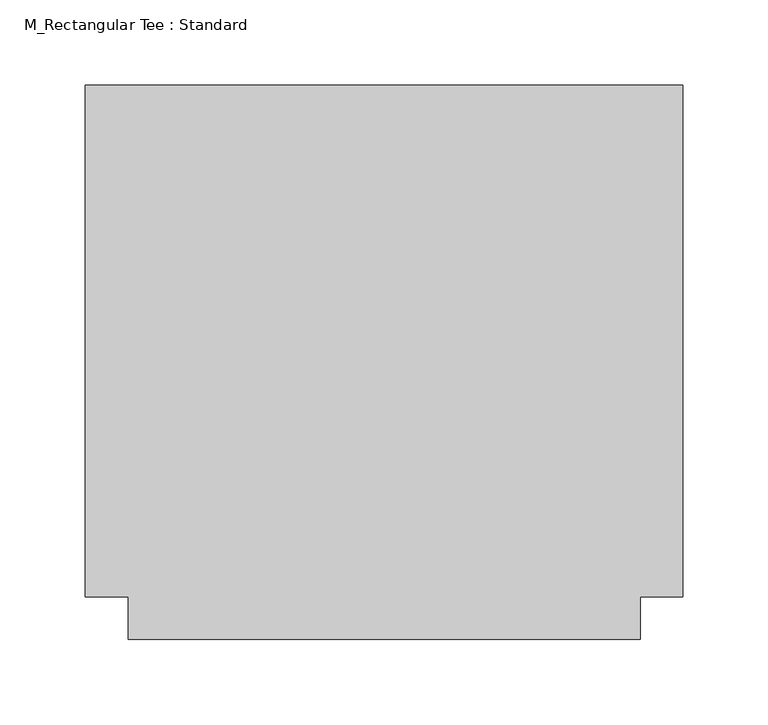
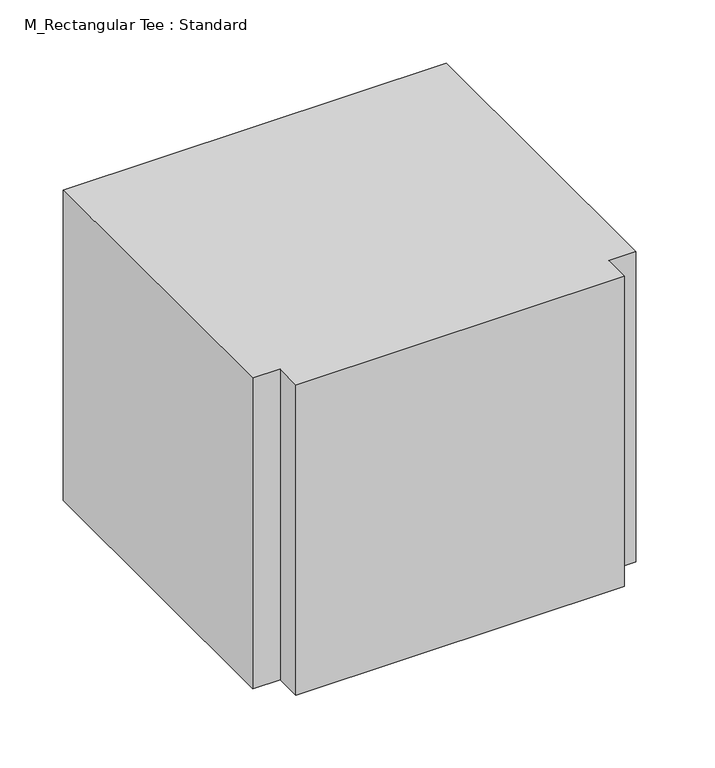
"""IFC4 building model written with IfcOpenShell, lengths in millimetres: duct fitting geometry, M_Rectangular Tee : Standard."""

import ifcopenshell
import ifcopenshell.guid

model = None  # the IFC model being written
_history = None  # IfcOwnerHistory: only IFC2X3 demands one
_inside = {}  # id of a spatial element -> (the spatial element, [elements in it])
_under = {}  # id of a project, library or spatial element -> (it, [spatial elements below it])
_declared = {}  # id of a project -> (the project, [libraries it declares])
_typed = {}  # id of a type object -> (the type object, [elements of that type])
_made_of = {}  # id of a material, layer set ... -> (it, [elements and type objects made of it])


def new_model(schema):
    """Start an empty IFC model of exactly this schema.

    Asked for "IFC4X3", IfcOpenShell would pick the latest addendum, in which some entities
    have other attributes; the version numbers below select the first issue.
    IFC2X3 requires an IfcOwnerHistory on every rooted entity: one is made here for all.
    """
    global model, _history
    if schema == "IFC4X3":
        model = ifcopenshell.file(schema_version=(4, 3, 0, 0))
    else:
        model = ifcopenshell.file(schema=schema)
    _inside.clear()
    _under.clear()
    _declared.clear()
    _typed.clear()
    _made_of.clear()
    _history = None
    if model.schema == "IFC2X3":
        org = make("IfcOrganization", Name="unknown")
        user = make(
            "IfcPersonAndOrganization",
            ThePerson=make("IfcPerson", FamilyName="unknown"),
            TheOrganization=org,
        )
        app = make(
            "IfcApplication",
            ApplicationDeveloper=org,
            Version="unknown",
            ApplicationFullName="unknown",
            ApplicationIdentifier="unknown",
        )
        _history = make(
            "IfcOwnerHistory",
            OwningUser=user,
            OwningApplication=app,
            ChangeAction="ADDED",
            CreationDate=0,
        )
    return model


def make(cls, **values):
    """One entity of the class cls with the attributes given. An attribute that is None is left unset."""
    return model.create_entity(
        cls, **{name: value for name, value in values.items() if value is not None}
    )


def rooted(cls, **values):
    """An entity with a GlobalId (a new one), such as an element, a storey or a relation."""
    return make(cls, GlobalId=ifcopenshell.guid.new(), OwnerHistory=_history, **values)


def si_unit(unit_type, name, prefix=None):
    """IfcSIUnit, for example si_unit("LENGTHUNIT", "METRE", prefix="MILLI")."""
    return make("IfcSIUnit", UnitType=unit_type, Prefix=prefix, Name=name)


def assignment(units):
    """IfcUnitAssignment: the units of a project."""
    return None if units is None else make("IfcUnitAssignment", Units=units)


def point(xyz):
    """IfcCartesianPoint."""
    return None if xyz is None else make("IfcCartesianPoint", Coordinates=xyz)


def direction(xyz):
    """IfcDirection."""
    return None if xyz is None else make("IfcDirection", DirectionRatios=xyz)


def frame(location, z_axis=None, x_axis=None):
    """IfcAxis2Placement3D, a coordinate frame: its origin and axes. An axis left out is left unset."""
    return make(
        "IfcAxis2Placement3D",
        Location=point(location),
        Axis=direction(z_axis),
        RefDirection=direction(x_axis),
    )


def origin():
    """The frame at (0, 0, 0) with its axes left unset."""
    return frame((0.0, 0.0, 0.0))


def place(relative_to, where):
    """IfcLocalPlacement: puts the frame where relative to a parent placement (None: the world)."""
    return make(
        "IfcLocalPlacement", PlacementRelTo=relative_to, RelativePlacement=where
    )


def context(
    kind, dimensions, precision=None, world=None, true_north=None, identifier=None
):
    """IfcGeometricRepresentationContext, for example the 3D "Model" context."""
    return make(
        "IfcGeometricRepresentationContext",
        ContextIdentifier=identifier,
        ContextType=kind,
        CoordinateSpaceDimension=dimensions,
        Precision=precision,
        WorldCoordinateSystem=world,
        TrueNorth=true_north,
    )


def project(units=None, contexts=None):
    """IfcProject with its units and contexts."""
    return rooted(
        "IfcProject",
        Name="project",
        RepresentationContexts=contexts,
        UnitsInContext=assignment(units),
    )


def spatial(cls, under=None, at=None, **own):
    """A site, building, storey or space (cls), placed at a placement, below another one or the project."""
    s = rooted(cls, ObjectPlacement=at, **own)
    if under is not None:
        _under.setdefault(under.id(), (under, []))[1].append(s)
    return s


def polyline(points):
    """IfcPolyline through the points."""
    return make("IfcPolyline", Points=[point(p) for p in points])


def outline(outer, holes=None, kind="AREA"):
    """IfcArbitraryClosedProfileDef: a profile drawn as a closed curve; with holes, ...WithVoids."""
    if holes is None:
        return make("IfcArbitraryClosedProfileDef", ProfileType=kind, OuterCurve=outer)
    return make(
        "IfcArbitraryProfileDefWithVoids",
        ProfileType=kind,
        OuterCurve=outer,
        InnerCurves=holes,
    )


def extrude(swept, where, along, depth):
    """IfcExtrudedAreaSolid: the profile swept, set in the frame where, extruded along a direction by depth."""
    return make(
        "IfcExtrudedAreaSolid",
        SweptArea=swept,
        Position=where,
        ExtrudedDirection=direction(along),
        Depth=depth,
    )


def shape(context_of_items, identifier, shape_type, items):
    """IfcShapeRepresentation: the items that make up one representation, for example the "Body"."""
    return make(
        "IfcShapeRepresentation",
        ContextOfItems=context_of_items,
        RepresentationIdentifier=identifier,
        RepresentationType=shape_type,
        Items=items,
    )


def source(mapping_origin, context_of_items, identifier, shape_type, items):
    """IfcRepresentationMap: a shape defined once, which mapped items show again and again."""
    return make(
        "IfcRepresentationMap",
        MappingOrigin=mapping_origin,
        MappedRepresentation=shape(context_of_items, identifier, shape_type, items),
    )


def transform(
    local_origin,
    x_axis=None,
    y_axis=None,
    z_axis=None,
    scale=None,
    scale2=None,
    scale3=None,
    uniform=True,
):
    """IfcCartesianTransformationOperator3D, or its non-uniform kind. x_axis, y_axis, z_axis: its Axis1, 2, 3."""
    if uniform:
        return make(
            "IfcCartesianTransformationOperator3D",
            Axis1=direction(x_axis),
            Axis2=direction(y_axis),
            LocalOrigin=point(local_origin),
            Scale=scale,
            Axis3=direction(z_axis),
        )
    return make(
        "IfcCartesianTransformationOperator3DnonUniform",
        Axis1=direction(x_axis),
        Axis2=direction(y_axis),
        LocalOrigin=point(local_origin),
        Scale=scale,
        Axis3=direction(z_axis),
        Scale2=scale2,
        Scale3=scale3,
    )


def mapped(mapping_source, mapping_target):
    """IfcMappedItem: shows the shape of a source again, moved by a transform."""
    return make(
        "IfcMappedItem", MappingSource=mapping_source, MappingTarget=mapping_target
    )


def made_of(thing, what):
    """Note that an element or type object is made of a material, layer set ...; save() writes the relation."""
    if what is not None:
        _made_of.setdefault(what.id(), (what, []))[1].append(thing)
    return thing


def element(
    cls,
    number,
    at=None,
    inside=None,
    cuts=None,
    type_object=None,
    material=None,
    context=None,
    identifier="Body",
    shape_type=None,
    held_by="IfcProductDefinitionShape",
    body=None,
    shapes=None,
    **own,
):
    """One element of the class cls, such as IfcWall. Its Tag is "e" and its number.

    at: its placement. inside: the storey or other place that contains it. cuts: it is an
    opening in that element (IfcRelVoidsElement). A single representation is given by context,
    identifier, shape_type and body (its items); several are given by shapes. held_by: the class
    of the entity that holds the representations. save() writes the other relations.
    """
    e = rooted(cls, Tag="e%d" % number, ObjectPlacement=at, **own)
    if body is not None:
        shapes = [shape(context, identifier, shape_type, body)]
    if shapes is not None:
        e.Representation = make(held_by, Representations=shapes)
    if inside is not None:
        _inside.setdefault(inside.id(), (inside, []))[1].append(e)
    if cuts is not None:
        rooted(
            "IfcRelVoidsElement", RelatingBuildingElement=cuts, RelatedOpeningElement=e
        )
    if type_object is not None:
        _typed.setdefault(type_object.id(), (type_object, []))[1].append(e)
    return made_of(e, material)


def aggregate(whole, parts):
    """IfcRelAggregates: a whole, such as a stair, and the parts it consists of."""
    return rooted("IfcRelAggregates", RelatingObject=whole, RelatedObjects=parts)


def save(model, path):
    """Write the relations noted so far, then the file.

    IfcRelAggregates (storeys below a building ...), IfcRelContainedInSpatialStructure (elements
    in a storey), IfcRelDefinesByType, IfcRelAssociatesMaterial and IfcRelDeclares: one each for
    every whole, place, type object, material and project.
    """
    for whole, parts in _under.values():
        aggregate(whole, parts)
    for where, things in _inside.values():
        rooted(
            "IfcRelContainedInSpatialStructure",
            RelatedElements=things,
            RelatingStructure=where,
        )
    for kind, things in _typed.values():
        rooted("IfcRelDefinesByType", RelatedObjects=things, RelatingType=kind)
    for what, things in _made_of.values():
        rooted("IfcRelAssociatesMaterial", RelatedObjects=things, RelatingMaterial=what)
    for by, libraries in _declared.values():
        rooted("IfcRelDeclares", RelatingContext=by, RelatedDefinitions=libraries)
    model.write(path)


def m_rectangular_tee_standard_bf2a2b7f(model_context):
    return source(origin(), model_context, "Body", "SweptSolid", [
        extrude(outline(polyline([(-175.0, -150.0), (-175.0, 150.0), (175.0, 150.0), (175.0, -150.0), (150.0, -150.0), (150.0, -175.0), (-150.0, -175.0), (-150.0, -150.0), (-175.0, -150.0)])), frame((0.0, 0.0, -150.0), z_axis=(0.0, 0.0, 1.0), x_axis=(1.0, 0.0, 0.0)), (0.0, 0.0, 1.0), 300.0),
        extrude(outline(polyline([(-175.0, 150.0), (175.0, 150.0), (175.0, -150.0), (150.0, -150.0), (150.0, -175.0), (-150.0, -175.0), (-150.0, -150.0), (-175.0, -150.0), (-175.0, 150.0)])), frame((0.0, 0.0, -150.0), z_axis=(0.0, 0.0, 1.0), x_axis=(1.0, 0.0, 0.0)), (0.0, 0.0, 1.0), 300.0),
        extrude(outline(polyline([(-175.0, -150.0), (-175.0, 150.0), (175.0, 150.0), (175.0, -150.0), (150.0, -150.0), (150.0, -175.0), (-150.0, -175.0), (-150.0, -150.0), (-175.0, -150.0)])), frame((0.0, 0.0, -150.0), z_axis=(0.0, 0.0, 1.0), x_axis=(1.0, 0.0, 0.0)), (0.0, 0.0, 1.0), 300.0),
    ])


if __name__ == "__main__":
    model = new_model("IFC4")
    model_context = context("Model", 3, world=origin())
    ifc_project = project(units=[si_unit("LENGTHUNIT", "METRE", prefix="MILLI")], contexts=[model_context])
    site = spatial("IfcSite", under=ifc_project)
    building = spatial("IfcBuilding", under=site)
    placement = place(None, origin())
    m_rectangular_tee_standard_shape = m_rectangular_tee_standard_bf2a2b7f(model_context)
    element("IfcDuctFitting", 1, ObjectType="M_Rectangular Tee : Standard", at=placement, inside=building, context=model_context, shape_type="MappedRepresentation", body=[
        mapped(m_rectangular_tee_standard_shape, transform((0.0, 0.0, 0.0), x_axis=(1.0, 0.0, 0.0), y_axis=(0.0, 1.0, 0.0), z_axis=(0.0, 0.0, 1.0))),
    ])
    save(model, "model.ifc")
